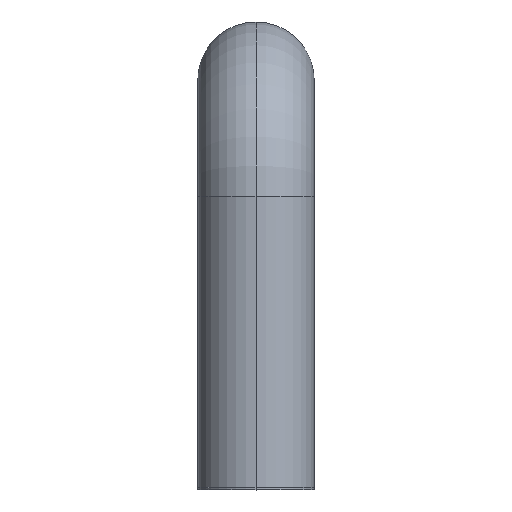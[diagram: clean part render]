
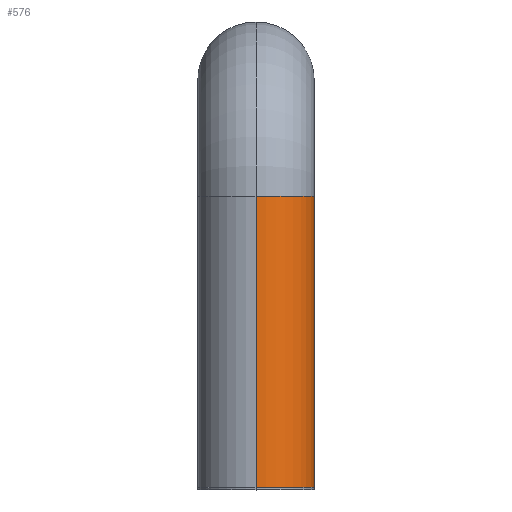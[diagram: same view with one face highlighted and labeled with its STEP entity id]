
A CAD part, top view. The second image highlights one B-rep face of the part: STEP entity #576.
In plain terms, the highlighted cylindrical face has radius 5 mm (diameter 10 mm), a partial arc.
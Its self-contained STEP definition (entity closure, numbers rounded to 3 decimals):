
#15 = DIRECTION ( 'NONE',  ( 0., 1., 0. ) ) ;
#46 = DIRECTION ( 'NONE',  ( 0., 0., 1. ) ) ;
#51 = EDGE_CURVE ( 'NONE', #279, #86, #546, .T. ) ;
#58 = CARTESIAN_POINT ( 'NONE',  ( 0., 0., 5. ) ) ;
#86 = VERTEX_POINT ( 'NONE', #342 ) ;
#119 = CARTESIAN_POINT ( 'NONE',  ( 0., 0., 5. ) ) ;
#127 = AXIS2_PLACEMENT_3D ( 'NONE', #345, #15, #198 ) ;
#151 = LINE ( 'NONE', #582, #335 ) ;
#197 = CARTESIAN_POINT ( 'NONE',  ( 0., 25., -5. ) ) ;
#198 = DIRECTION ( 'NONE',  ( 0., 0., 1. ) ) ;
#250 = DIRECTION ( 'NONE',  ( 0., 0., 1. ) ) ;
#252 = DIRECTION ( 'NONE',  ( 0., 1., 0. ) ) ;
#255 = CARTESIAN_POINT ( 'NONE',  ( 0., 0., 0. ) ) ;
#261 = ORIENTED_EDGE ( 'NONE', *, *, #347, .T. ) ;
#273 = CIRCLE ( 'NONE', #127, 5. ) ;
#279 = VERTEX_POINT ( 'NONE', #58 ) ;
#298 = LINE ( 'NONE', #119, #408 ) ;
#302 = DIRECTION ( 'NONE',  ( 0., 1., 0. ) ) ;
#326 = CARTESIAN_POINT ( 'NONE',  ( 0., 0., 0. ) ) ;
#335 = VECTOR ( 'NONE', #252, 1000. ) ;
#342 = CARTESIAN_POINT ( 'NONE',  ( 0., 0., -5. ) ) ;
#345 = CARTESIAN_POINT ( 'NONE',  ( 0., 25., 0. ) ) ;
#347 = EDGE_CURVE ( 'NONE', #86, #611, #151, .T. ) ;
#355 = CYLINDRICAL_SURFACE ( 'NONE', #435, 5. ) ;
#393 = FACE_OUTER_BOUND ( 'NONE', #461, .T. ) ;
#408 = VECTOR ( 'NONE', #598, 1000. ) ;
#425 = EDGE_CURVE ( 'NONE', #428, #611, #273, .T. ) ;
#428 = VERTEX_POINT ( 'NONE', #454 ) ;
#432 = AXIS2_PLACEMENT_3D ( 'NONE', #326, #519, #46 ) ;
#435 = AXIS2_PLACEMENT_3D ( 'NONE', #255, #302, #250 ) ;
#454 = CARTESIAN_POINT ( 'NONE',  ( 0., 25., 5. ) ) ;
#455 = ORIENTED_EDGE ( 'NONE', *, *, #51, .T. ) ;
#461 = EDGE_LOOP ( 'NONE', ( #455, #261, #568, #482 ) ) ;
#482 = ORIENTED_EDGE ( 'NONE', *, *, #621, .F. ) ;
#519 = DIRECTION ( 'NONE',  ( 0., 1., 0. ) ) ;
#546 = CIRCLE ( 'NONE', #432, 5. ) ;
#568 = ORIENTED_EDGE ( 'NONE', *, *, #425, .F. ) ;
#576 = ADVANCED_FACE ( 'NONE', ( #393 ), #355, .T. ) ;
#582 = CARTESIAN_POINT ( 'NONE',  ( 0., 0., -5. ) ) ;
#598 = DIRECTION ( 'NONE',  ( 0., 1., 0. ) ) ;
#611 = VERTEX_POINT ( 'NONE', #197 ) ;
#621 = EDGE_CURVE ( 'NONE', #279, #428, #298, .T. ) ;
